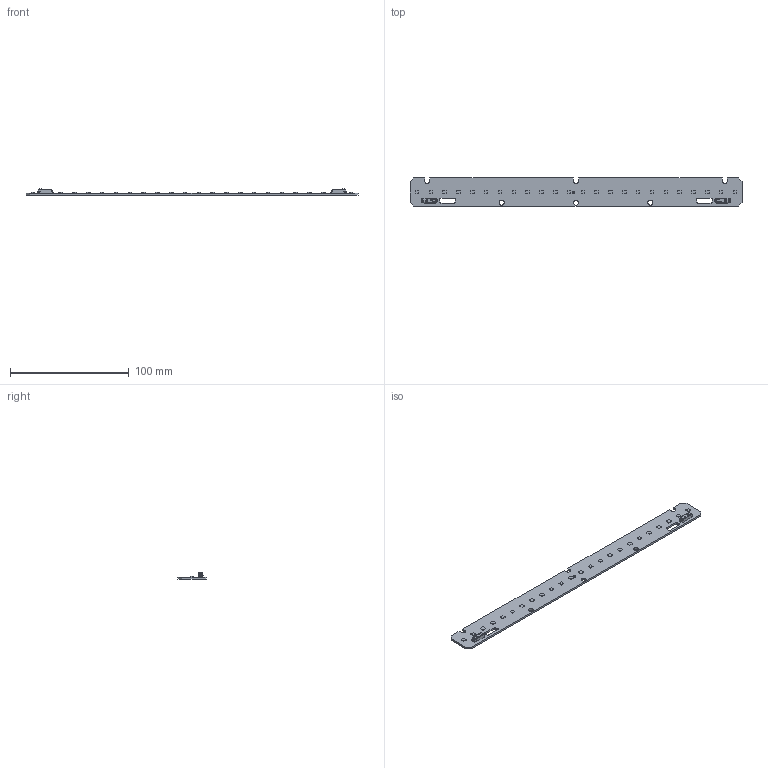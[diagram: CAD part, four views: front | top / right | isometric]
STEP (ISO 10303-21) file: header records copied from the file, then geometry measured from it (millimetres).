
FILE_DESCRIPTION((''),'2;1');
FILE_NAME('16208804_LLE-G5-24X280-1250LM','2018-08-21T11:11:17',('bernhard.fink'),(''),'CREO PARAMETRIC BY PTC INC, 2017380','CREO PARAMETRIC BY PTC INC, 2017380','');
FILE_SCHEMA(('AUTOMOTIVE_DESIGN { 1 0 10303 214 1 1 1 1 }'));
Length unit declared in the file: millimetre
Products named in the file (1): 16208804_LLE-G5-24X280-1250LM
Bounding box: 279 x 23.6 x 5.1 mm (x, y, z)
Volume: 10843.5 mm3; surface area: 14464.1 mm2
Topology: 1 solids, 1 shells, 754 faces, 1974 edges, 1249 vertices
Faces by surface type: plane 356, cylinder 218, bspline 120, cone 34, torus 14, sphere 12
Entity records: 39207 total; most frequent: CARTESIAN_POINT 10047, ORIENTED_EDGE 3920, DIRECTION 3200, PRESENTATION_STYLE_ASSIGNMENT 2715, STYLED_ITEM 1961, CURVE_STYLE 1960, EDGE_CURVE 1960, VERTEX_POINT 1247
